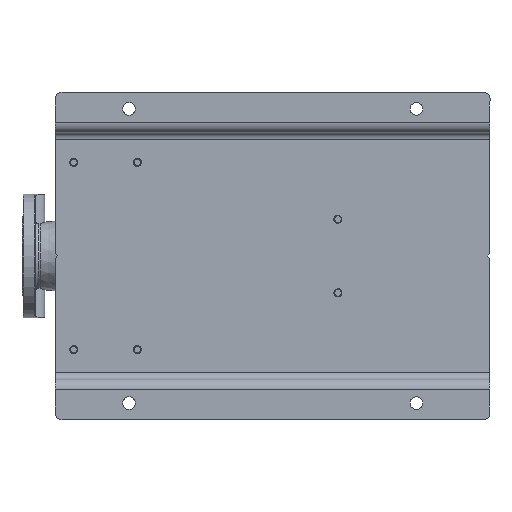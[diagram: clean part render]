
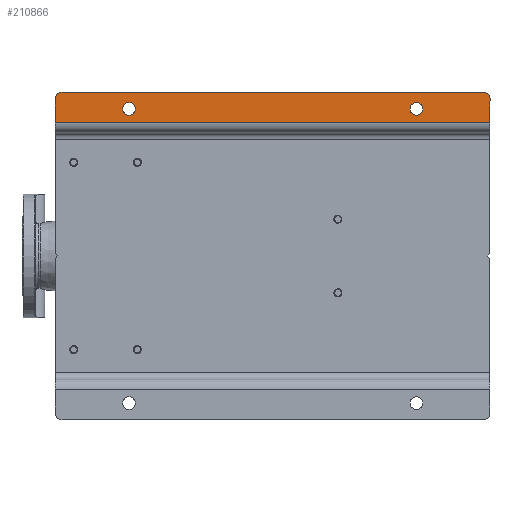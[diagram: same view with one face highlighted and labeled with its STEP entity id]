
A CAD part, front view. The second image highlights one B-rep face of the part: STEP entity #210866.
In plain terms, the highlighted planar face has unit normal (0, -1, 0).
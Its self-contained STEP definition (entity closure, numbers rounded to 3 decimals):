
#645 = DIRECTION ( 'NONE',  ( 0., -1., 0. ) ) ;
#1057 = CIRCLE ( 'NONE', #48703, 9.5 ) ;
#1983 = ORIENTED_EDGE ( 'NONE', *, *, #62126, .T. ) ;
#2713 = CARTESIAN_POINT ( 'NONE',  ( 445., 0., -650. ) ) ;
#3019 = CARTESIAN_POINT ( 'NONE',  ( 429., 0., -650. ) ) ;
#7948 = VERTEX_POINT ( 'NONE', #68832 ) ;
#10745 = VECTOR ( 'NONE', #28512, 1000. ) ;
#11890 = DIRECTION ( 'NONE',  ( 0., -1., 0. ) ) ;
#14199 = VERTEX_POINT ( 'NONE', #118014 ) ;
#14884 = DIRECTION ( 'NONE',  ( 0., 0., -1. ) ) ;
#15435 = AXIS2_PLACEMENT_3D ( 'NONE', #16251, #82348, #79196 ) ;
#16251 = CARTESIAN_POINT ( 'NONE',  ( 465., 0., -110. ) ) ;
#18280 = EDGE_CURVE ( 'NONE', #7948, #207825, #189418, .T. ) ;
#27716 = AXIS2_PLACEMENT_3D ( 'NONE', #130019, #180048, #14884 ) ;
#28512 = DIRECTION ( 'NONE',  ( 1., 0., 0. ) ) ;
#32869 = AXIS2_PLACEMENT_3D ( 'NONE', #92562, #139487, #173521 ) ;
#38013 = DIRECTION ( 'NONE',  ( 0., 0., 1. ) ) ;
#40576 = VERTEX_POINT ( 'NONE', #144880 ) ;
#40639 = CARTESIAN_POINT ( 'NONE',  ( 455.5, 0., -110. ) ) ;
#42816 = EDGE_LOOP ( 'NONE', ( #77051, #90569 ) ) ;
#48703 = AXIS2_PLACEMENT_3D ( 'NONE', #199042, #151099, #201171 ) ;
#53615 = ORIENTED_EDGE ( 'NONE', *, *, #164685, .T. ) ;
#54495 = ORIENTED_EDGE ( 'NONE', *, *, #89849, .F. ) ;
#55355 = EDGE_CURVE ( 'NONE', #210680, #40576, #170135, .T. ) ;
#61585 = VERTEX_POINT ( 'NONE', #40639 ) ;
#61756 = DIRECTION ( 'NONE',  ( 0., -1., 0. ) ) ;
#62126 = EDGE_CURVE ( 'NONE', #169569, #130513, #162552, .T. ) ;
#68832 = CARTESIAN_POINT ( 'NONE',  ( 474.5, 0., -540. ) ) ;
#77051 = ORIENTED_EDGE ( 'NONE', *, *, #117266, .T. ) ;
#79196 = DIRECTION ( 'NONE',  ( 0., 0., -1. ) ) ;
#80924 = EDGE_LOOP ( 'NONE', ( #154921, #154373 ) ) ;
#81582 = CARTESIAN_POINT ( 'NONE',  ( 445., 0., -650. ) ) ;
#82348 = DIRECTION ( 'NONE',  ( 0., 1., 0. ) ) ;
#82768 = FACE_BOUND ( 'NONE', #80924, .T. ) ;
#87008 = CIRCLE ( 'NONE', #15435, 9.5 ) ;
#89849 = EDGE_CURVE ( 'NONE', #169569, #181984, #96671, .T. ) ;
#90569 = ORIENTED_EDGE ( 'NONE', *, *, #99474, .T. ) ;
#92562 = CARTESIAN_POINT ( 'NONE',  ( 465., 0., -540. ) ) ;
#95626 = CARTESIAN_POINT ( 'NONE',  ( 429., 0., 0. ) ) ;
#96671 = LINE ( 'NONE', #95626, #10745 ) ;
#99474 = EDGE_CURVE ( 'NONE', #195541, #61585, #87008, .T. ) ;
#103254 = LINE ( 'NONE', #3019, #145731 ) ;
#105102 = AXIS2_PLACEMENT_3D ( 'NONE', #127015, #11890, #205899 ) ;
#107697 = VECTOR ( 'NONE', #38013, 1000. ) ;
#109749 = CARTESIAN_POINT ( 'NONE',  ( 480., 0., -640. ) ) ;
#114739 = PLANE ( 'NONE',  #128830 ) ;
#117266 = EDGE_CURVE ( 'NONE', #61585, #195541, #1057, .T. ) ;
#118014 = CARTESIAN_POINT ( 'NONE',  ( 480., 0., -650. ) ) ;
#118694 = FACE_BOUND ( 'NONE', #42816, .T. ) ;
#119758 = FACE_OUTER_BOUND ( 'NONE', #147970, .T. ) ;
#127015 = CARTESIAN_POINT ( 'NONE',  ( 480., 0., -10. ) ) ;
#128830 = AXIS2_PLACEMENT_3D ( 'NONE', #135725, #645, #136787 ) ;
#128964 = CARTESIAN_POINT ( 'NONE',  ( 474.5, 0., -110. ) ) ;
#130019 = CARTESIAN_POINT ( 'NONE',  ( 465., 0., -540. ) ) ;
#130513 = VERTEX_POINT ( 'NONE', #2713 ) ;
#134036 = CARTESIAN_POINT ( 'NONE',  ( 455.5, 0., -540. ) ) ;
#135725 = CARTESIAN_POINT ( 'NONE',  ( 429., 0., -650. ) ) ;
#136787 = DIRECTION ( 'NONE',  ( 0., 0., -1. ) ) ;
#139487 = DIRECTION ( 'NONE',  ( 0., 1., 0. ) ) ;
#140449 = CARTESIAN_POINT ( 'NONE',  ( 490., 0., -640. ) ) ;
#142776 = EDGE_CURVE ( 'NONE', #130513, #14199, #103254, .T. ) ;
#144880 = CARTESIAN_POINT ( 'NONE',  ( 490., 0., -10. ) ) ;
#145731 = VECTOR ( 'NONE', #210193, 1000. ) ;
#147970 = EDGE_LOOP ( 'NONE', ( #54495, #1983, #174598, #53615, #152402, #169331 ) ) ;
#151099 = DIRECTION ( 'NONE',  ( 0., 1., 0. ) ) ;
#152402 = ORIENTED_EDGE ( 'NONE', *, *, #55355, .T. ) ;
#154373 = ORIENTED_EDGE ( 'NONE', *, *, #18280, .T. ) ;
#154921 = ORIENTED_EDGE ( 'NONE', *, *, #181940, .T. ) ;
#160464 = DIRECTION ( 'NONE',  ( 0., 0., -1. ) ) ;
#162552 = LINE ( 'NONE', #81582, #176549 ) ;
#164685 = EDGE_CURVE ( 'NONE', #14199, #210680, #181983, .T. ) ;
#165092 = CARTESIAN_POINT ( 'NONE',  ( 480., 0., 0. ) ) ;
#165908 = CARTESIAN_POINT ( 'NONE',  ( 490., 0., -650. ) ) ;
#169331 = ORIENTED_EDGE ( 'NONE', *, *, #209183, .T. ) ;
#169569 = VERTEX_POINT ( 'NONE', #182476 ) ;
#170135 = LINE ( 'NONE', #165908, #107697 ) ;
#173521 = DIRECTION ( 'NONE',  ( 0., 0., -1. ) ) ;
#174598 = ORIENTED_EDGE ( 'NONE', *, *, #142776, .T. ) ;
#176549 = VECTOR ( 'NONE', #160464, 1000. ) ;
#180048 = DIRECTION ( 'NONE',  ( 0., 1., 0. ) ) ;
#181940 = EDGE_CURVE ( 'NONE', #207825, #7948, #194458, .T. ) ;
#181983 = CIRCLE ( 'NONE', #209265, 10. ) ;
#181984 = VERTEX_POINT ( 'NONE', #165092 ) ;
#182476 = CARTESIAN_POINT ( 'NONE',  ( 445., 0., 0. ) ) ;
#189418 = CIRCLE ( 'NONE', #32869, 9.5 ) ;
#190716 = DIRECTION ( 'NONE',  ( 0., 0., -1. ) ) ;
#194458 = CIRCLE ( 'NONE', #27716, 9.5 ) ;
#195541 = VERTEX_POINT ( 'NONE', #128964 ) ;
#199042 = CARTESIAN_POINT ( 'NONE',  ( 465., 0., -110. ) ) ;
#201171 = DIRECTION ( 'NONE',  ( 0., 0., -1. ) ) ;
#205899 = DIRECTION ( 'NONE',  ( 0., 0., -1. ) ) ;
#206695 = CIRCLE ( 'NONE', #105102, 10. ) ;
#207825 = VERTEX_POINT ( 'NONE', #134036 ) ;
#209183 = EDGE_CURVE ( 'NONE', #40576, #181984, #206695, .T. ) ;
#209265 = AXIS2_PLACEMENT_3D ( 'NONE', #109749, #61756, #190716 ) ;
#210193 = DIRECTION ( 'NONE',  ( 1., 0., 0. ) ) ;
#210680 = VERTEX_POINT ( 'NONE', #140449 ) ;
#210866 = ADVANCED_FACE ( 'NONE', ( #118694, #82768, #119758 ), #114739, .T. ) ;
